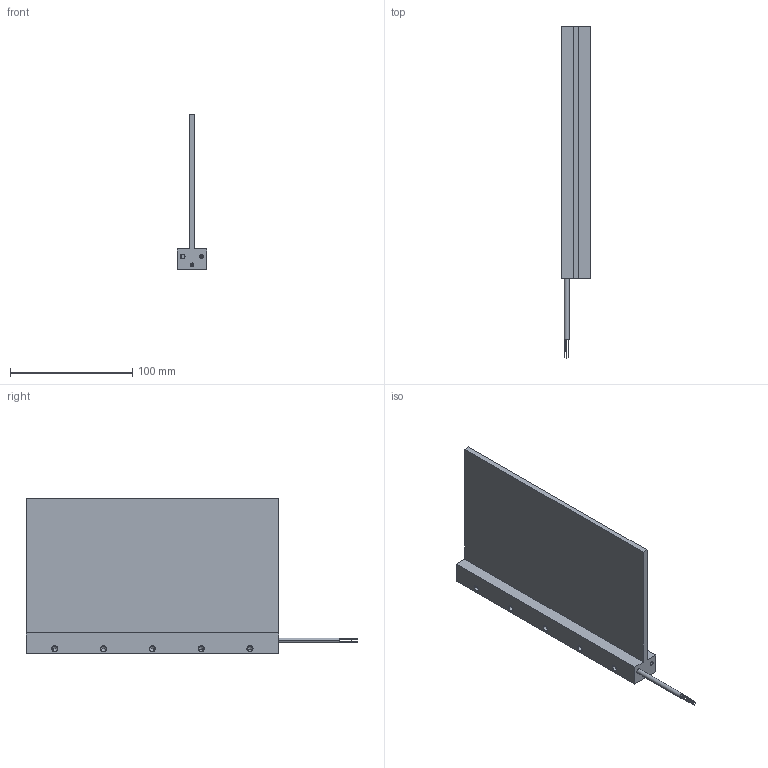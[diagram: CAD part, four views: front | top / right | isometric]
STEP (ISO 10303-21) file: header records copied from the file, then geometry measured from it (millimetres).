
FILE_DESCRIPTION((''),'2;1');
FILE_NAME('IL12-100','2006-04-05T',('saurabh.singhal'),('Kollmorgen'),'PRO/ENGINEER BY PARAMETRIC TECHNOLOGY CORPORATION, 2005310','PRO/ENGINEER BY PARAMETRIC TECHNOLOGY CORPORATION, 2005310','');
FILE_SCHEMA(('CONFIG_CONTROL_DESIGN'));
Length unit declared in the file: millimetre
Products named in the file (1): IL12-100
Bounding box: 24.4 x 271.81 x 127.3 mm (x, y, z)
Volume: 185377.1 mm3; surface area: 68252.4 mm2
Topology: 1 solids, 21 shells, 189 faces, 462 edges, 288 vertices
Faces by surface type: cylinder 106, plane 43, cone 40
Entity records: 5395 total; most frequent: DIRECTION 1054, CARTESIAN_POINT 900, ORIENTED_EDGE 764, AXIS2_PLACEMENT_3D 442, EDGE_CURVE 422, VERTEX_POINT 288, CIRCLE 252, EDGE_LOOP 242
